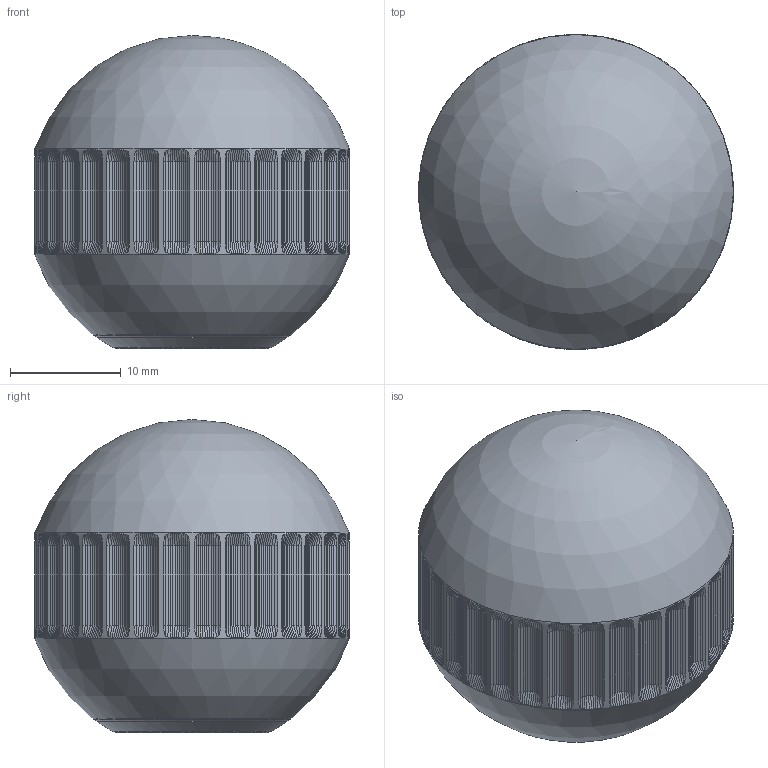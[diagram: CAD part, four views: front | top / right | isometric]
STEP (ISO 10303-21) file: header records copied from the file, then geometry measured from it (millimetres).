
FILE_DESCRIPTION(('Open CASCADE Model'),'2;1');
FILE_NAME('RL-BALL-knob-30','2026-10-19T21:23:59',('Author'),( 'Open CASCADE'),'Open CASCADE STEP processor 8.0','build123d', 'Unknown');
FILE_SCHEMA(('AUTOMOTIVE_DESIGN { 1 0 10303 214 1 1 1 1 }'));
Length unit declared in the file: millimetre
Products named in the file (2): RL-BALL-knob-30; brass_RL-BALL30__k
Assembly tree (1 placements, depth 2):
  RL-BALL-knob-30
    brass_RL-BALL30__k
Bounding box: 28.42 x 28.42 x 28.27 mm (x, y, z)
Volume: 13181.6 mm3; surface area: 2990.5 mm2
Topology: 1 solids, 1 shells, 1165 faces, 2679 edges, 1549 vertices
Faces by surface type: bspline 769, plane 387, cylinder 4, sphere 3, cone 2
Full cylindrical faces by diameter (mm): 3.3 x1, 5.1 x1, 17.866 x1, 28.423 x1
Entity records: 79412 total; most frequent: CARTESIAN_POINT 35284, ORIENTED_EDGE 5356, PCURVE 5356, DEFINITIONAL_REPRESENTATION 5356, B_SPLINE_CURVE_WITH_KNOTS 4455, DIRECTION 4388, LINE 3562, VECTOR 3562
